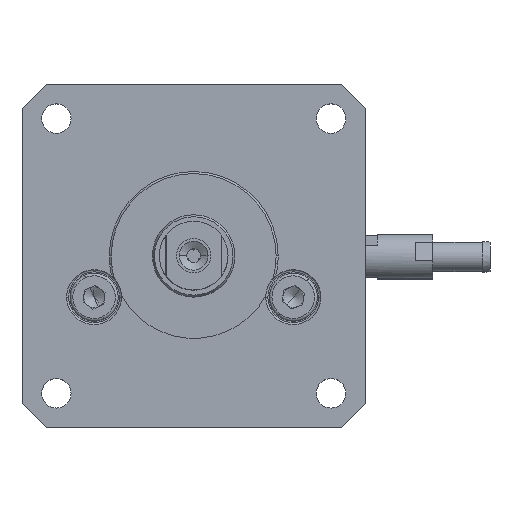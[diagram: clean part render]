
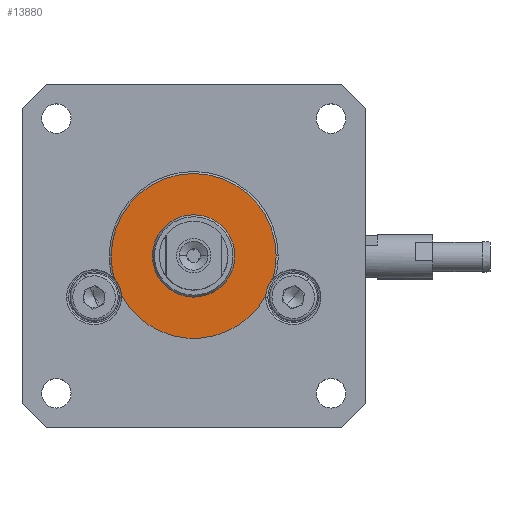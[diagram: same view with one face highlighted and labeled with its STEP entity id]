
A CAD part, top view. The second image highlights one B-rep face of the part: STEP entity #13880.
In plain terms, the highlighted planar face has unit normal (0, 0, 1).
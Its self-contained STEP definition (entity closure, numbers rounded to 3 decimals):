
#100 = DIRECTION ( 'NONE',  ( 0., 0., 1. ) ) ;
#276 = CIRCLE ( 'NONE', #20490, 4. ) ;
#397 = ORIENTED_EDGE ( 'NONE', *, *, #20805, .F. ) ;
#753 = CARTESIAN_POINT ( 'NONE',  ( -10.505, -5.8, 8. ) ) ;
#804 = VERTEX_POINT ( 'NONE', #19129 ) ;
#825 = AXIS2_PLACEMENT_3D ( 'NONE', #13488, #3218, #15241 ) ;
#1592 = CARTESIAN_POINT ( 'NONE',  ( -11.532, -3.318, 8. ) ) ;
#1877 = CARTESIAN_POINT ( 'NONE',  ( -6., 0., 8. ) ) ;
#2485 = EDGE_CURVE ( 'NONE', #10084, #16069, #16835, .T. ) ;
#2581 = VERTEX_POINT ( 'NONE', #1592 ) ;
#2754 = DIRECTION ( 'NONE',  ( 0., 0., 1. ) ) ;
#2858 = EDGE_CURVE ( 'NONE', #13800, #17417, #21216, .T. ) ;
#3218 = DIRECTION ( 'NONE',  ( 0., 0., 1. ) ) ;
#3237 = CARTESIAN_POINT ( 'NONE',  ( 6., 0., 8. ) ) ;
#3664 = DIRECTION ( 'NONE',  ( 0., 0., 1. ) ) ;
#4183 = PLANE ( 'NONE',  #18937 ) ;
#4719 = CIRCLE ( 'NONE', #13785, 4. ) ;
#4747 = ORIENTED_EDGE ( 'NONE', *, *, #11047, .F. ) ;
#4839 = EDGE_LOOP ( 'NONE', ( #7266, #7007 ) ) ;
#6536 = EDGE_LOOP ( 'NONE', ( #397, #19247, #4747, #10905, #15010, #21596 ) ) ;
#7007 = ORIENTED_EDGE ( 'NONE', *, *, #12570, .F. ) ;
#7266 = ORIENTED_EDGE ( 'NONE', *, *, #17268, .F. ) ;
#7536 = CIRCLE ( 'NONE', #20760, 6. ) ;
#7561 = DIRECTION ( 'NONE',  ( 0., 0., 1. ) ) ;
#7887 = DIRECTION ( 'NONE',  ( 0., 0., 1. ) ) ;
#8163 = CARTESIAN_POINT ( 'NONE',  ( 0., 0., 8. ) ) ;
#8291 = DIRECTION ( 'NONE',  ( 0., 0., 1. ) ) ;
#8681 = EDGE_CURVE ( 'NONE', #804, #2581, #13034, .T. ) ;
#9117 = AXIS2_PLACEMENT_3D ( 'NONE', #18570, #8291, #20307 ) ;
#9408 = DIRECTION ( 'NONE',  ( 1., 0., 0. ) ) ;
#9461 = AXIS2_PLACEMENT_3D ( 'NONE', #13004, #2754, #14753 ) ;
#9669 = CIRCLE ( 'NONE', #825, 12. ) ;
#9911 = DIRECTION ( 'NONE',  ( 1., 0., 0. ) ) ;
#10084 = VERTEX_POINT ( 'NONE', #753 ) ;
#10382 = CARTESIAN_POINT ( 'NONE',  ( 0., 0., 8. ) ) ;
#10905 = ORIENTED_EDGE ( 'NONE', *, *, #2858, .T. ) ;
#11047 = EDGE_CURVE ( 'NONE', #13800, #16069, #4719, .T. ) ;
#11965 = FACE_OUTER_BOUND ( 'NONE', #6536, .T. ) ;
#12079 = DIRECTION ( 'NONE',  ( 1., 0., 0. ) ) ;
#12091 = CARTESIAN_POINT ( 'NONE',  ( 12., 0., 8. ) ) ;
#12479 = FACE_BOUND ( 'NONE', #4839, .T. ) ;
#12570 = EDGE_CURVE ( 'NONE', #18005, #20669, #7536, .T. ) ;
#13004 = CARTESIAN_POINT ( 'NONE',  ( 0., 0., 8. ) ) ;
#13034 = CIRCLE ( 'NONE', #9461, 12. ) ;
#13330 = AXIS2_PLACEMENT_3D ( 'NONE', #8163, #20180, #9911 ) ;
#13488 = CARTESIAN_POINT ( 'NONE',  ( 0., 0., 8. ) ) ;
#13785 = AXIS2_PLACEMENT_3D ( 'NONE', #17842, #7561, #19560 ) ;
#13800 = VERTEX_POINT ( 'NONE', #14251 ) ;
#13880 = ADVANCED_FACE ( 'NONE', ( #11965, #12479 ), #4183, .T. ) ;
#13957 = CARTESIAN_POINT ( 'NONE',  ( -14.5, -6., 8. ) ) ;
#14251 = CARTESIAN_POINT ( 'NONE',  ( 11.532, -3.318, 8. ) ) ;
#14753 = DIRECTION ( 'NONE',  ( 1., 0., 0. ) ) ;
#15010 = ORIENTED_EDGE ( 'NONE', *, *, #16523, .T. ) ;
#15241 = DIRECTION ( 'NONE',  ( 1., 0., 0. ) ) ;
#15690 = DIRECTION ( 'NONE',  ( 1., 0., 0. ) ) ;
#16069 = VERTEX_POINT ( 'NONE', #20528 ) ;
#16198 = CARTESIAN_POINT ( 'NONE',  ( 0., 0., 8. ) ) ;
#16523 = EDGE_CURVE ( 'NONE', #17417, #804, #9669, .T. ) ;
#16835 = CIRCLE ( 'NONE', #9117, 12. ) ;
#17268 = EDGE_CURVE ( 'NONE', #20669, #18005, #18468, .T. ) ;
#17417 = VERTEX_POINT ( 'NONE', #12091 ) ;
#17842 = CARTESIAN_POINT ( 'NONE',  ( 14.5, -6., 8. ) ) ;
#18005 = VERTEX_POINT ( 'NONE', #1877 ) ;
#18168 = CARTESIAN_POINT ( 'NONE',  ( 0., 0., 8. ) ) ;
#18246 = DIRECTION ( 'NONE',  ( 1., 0., 0. ) ) ;
#18468 = CIRCLE ( 'NONE', #13330, 6. ) ;
#18570 = CARTESIAN_POINT ( 'NONE',  ( 0., 0., 8. ) ) ;
#18937 = AXIS2_PLACEMENT_3D ( 'NONE', #16198, #19658, #9408 ) ;
#19129 = CARTESIAN_POINT ( 'NONE',  ( -12., 0., 8. ) ) ;
#19247 = ORIENTED_EDGE ( 'NONE', *, *, #2485, .T. ) ;
#19560 = DIRECTION ( 'NONE',  ( 1., 0., 0. ) ) ;
#19658 = DIRECTION ( 'NONE',  ( 0., 0., 1. ) ) ;
#20180 = DIRECTION ( 'NONE',  ( 0., 0., 1. ) ) ;
#20307 = DIRECTION ( 'NONE',  ( 1., 0., 0. ) ) ;
#20490 = AXIS2_PLACEMENT_3D ( 'NONE', #13957, #3664, #15690 ) ;
#20528 = CARTESIAN_POINT ( 'NONE',  ( 10.505, -5.8, 8. ) ) ;
#20669 = VERTEX_POINT ( 'NONE', #3237 ) ;
#20760 = AXIS2_PLACEMENT_3D ( 'NONE', #10382, #100, #12079 ) ;
#20805 = EDGE_CURVE ( 'NONE', #10084, #2581, #276, .T. ) ;
#20891 = AXIS2_PLACEMENT_3D ( 'NONE', #18168, #7887, #18246 ) ;
#21216 = CIRCLE ( 'NONE', #20891, 12. ) ;
#21596 = ORIENTED_EDGE ( 'NONE', *, *, #8681, .T. ) ;
